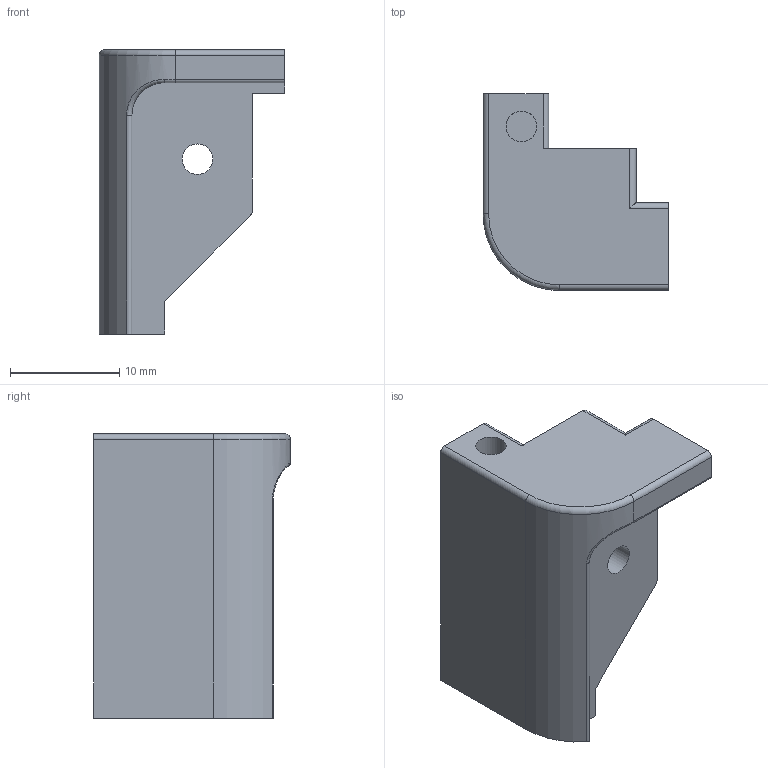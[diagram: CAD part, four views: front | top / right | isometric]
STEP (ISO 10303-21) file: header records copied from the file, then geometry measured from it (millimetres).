
FILE_DESCRIPTION(('Open CASCADE Model'),'2;1');
FILE_NAME('Open CASCADE Shape Model','2026-09-13T14:28:45',('Author'),( 'Open CASCADE'),'Open CASCADE STEP processor 7.9','Open CASCADE 7.9' ,'Unknown');
FILE_SCHEMA(('AUTOMOTIVE_DESIGN { 1 0 10303 214 1 1 1 1 }'));
Length unit declared in the file: millimetre
Products named in the file (1): Open CASCADE STEP translator 7.9 23
Bounding box: 17 x 18 x 26 mm (x, y, z)
Volume: 3746.4 mm3; surface area: 1973.2 mm2
Topology: 1 solids, 1 shells, 31 faces, 79 edges, 51 vertices
Faces by surface type: plane 16, cylinder 12, torus 2, bspline 1
Full cylindrical faces by diameter (mm): 2.8 x2
Entity records: 2502 total; most frequent: CARTESIAN_POINT 900, DIRECTION 304, LINE 183, VECTOR 183, ORIENTED_EDGE 158, PCURVE 158, DEFINITIONAL_REPRESENTATION 158, EDGE_CURVE 79
